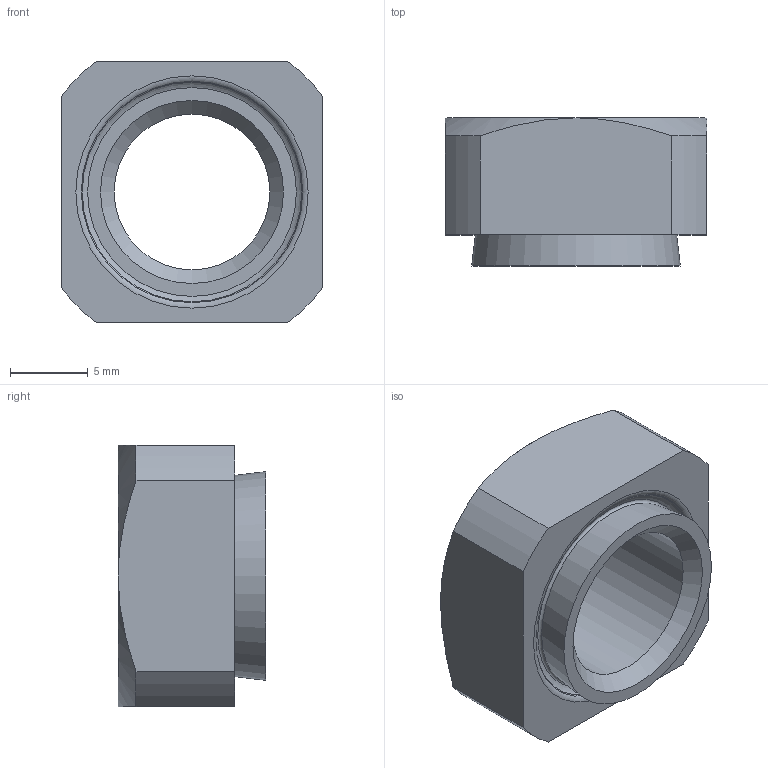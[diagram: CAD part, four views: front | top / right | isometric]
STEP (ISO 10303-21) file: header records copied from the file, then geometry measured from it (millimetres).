
FILE_DESCRIPTION(/* description */ (''),/* implementation_level */ '2;1');
FILE_NAME(/* name */ 'D:\Sukhmani\Fastit\HN Nut\HN 10-2.5.stp',/* time_stamp */ '2024-03-14T12:22:41+06:00',/* author */ ('edc.sukhmani'),/* organization */ (''),/* preprocessor_version */ 'ST-DEVELOPER v18.1',/* originating_system */ 'Autodesk Inventor 2022',/* authorisation */ '');
FILE_SCHEMA (('AUTOMOTIVE_DESIGN { 1 0 10303 214 3 1 1 }'));
Length unit declared in the file: millimetre
Products named in the file (1): HN 10-2.5
Bounding box: 16.8 x 9.5 x 16.8 mm (x, y, z)
Volume: 1504.4 mm3; surface area: 1213.9 mm2
Topology: 1 solids, 1 shells, 24 faces, 58 edges, 37 vertices
Faces by surface type: cone 8, plane 7, cylinder 6, torus 3
Full cylindrical faces by diameter (mm): 10 x1, 11.75 x1
Entity records: 753 total; most frequent: CARTESIAN_POINT 136, DIRECTION 132, ORIENTED_EDGE 116, EDGE_CURVE 58, AXIS2_PLACEMENT_3D 57, VERTEX_POINT 37, CIRCLE 32, EDGE_LOOP 27
